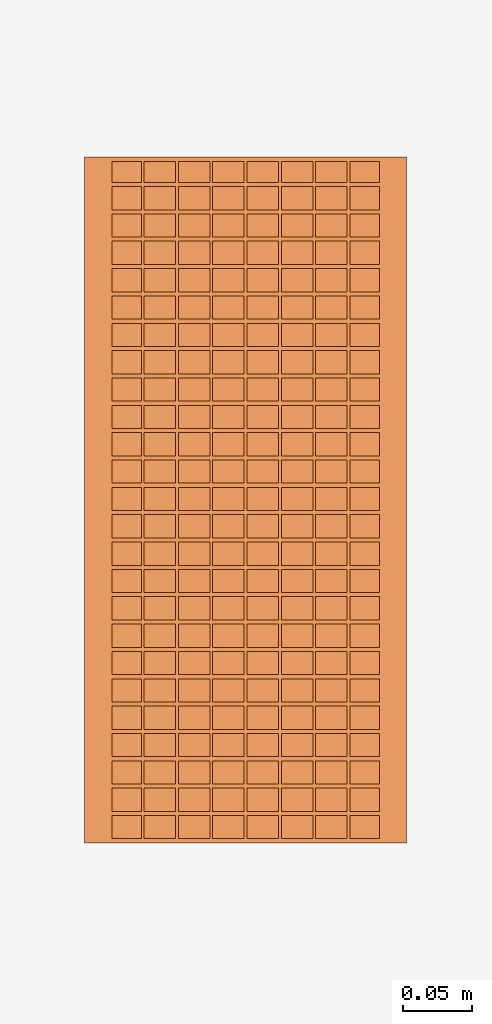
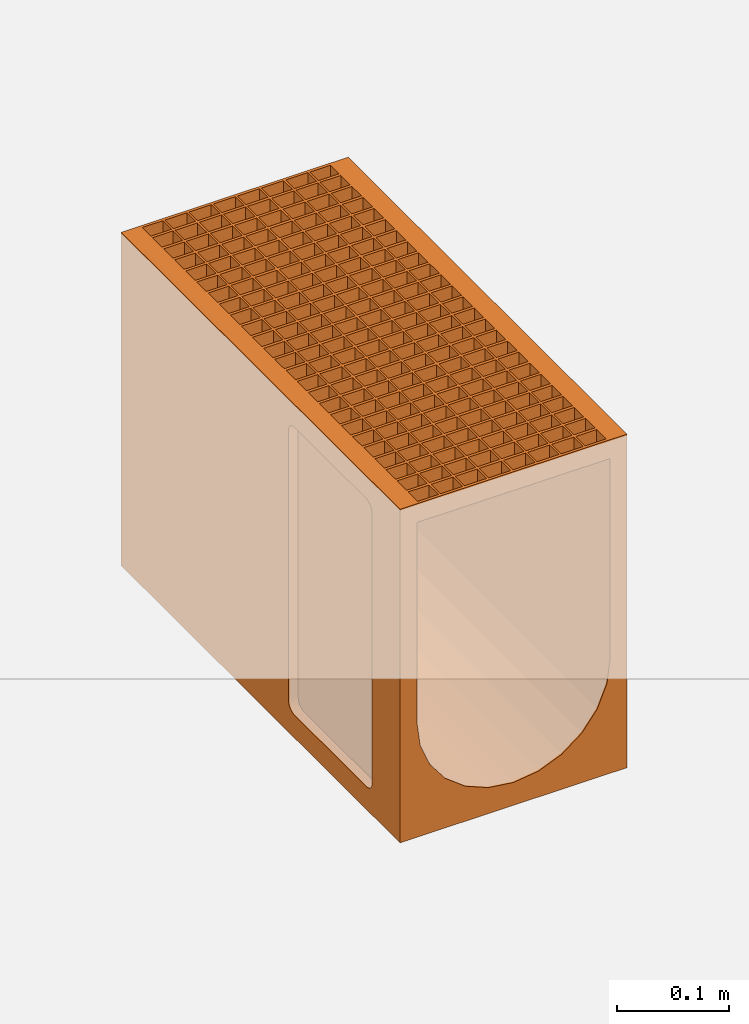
# One storey, part 2 of 2: 1 proxy.
"""IFC2X3 building model written with IfcOpenShell, lengths in millimetres."""

import ifcopenshell
import ifcopenshell.guid

model = None  # the IFC model being written
_history = None  # IfcOwnerHistory: only IFC2X3 demands one
_inside = {}  # id of a spatial element -> (the spatial element, [elements in it])
_under = {}  # id of a project, library or spatial element -> (it, [spatial elements below it])
_declared = {}  # id of a project -> (the project, [libraries it declares])
_typed = {}  # id of a type object -> (the type object, [elements of that type])
_made_of = {}  # id of a material, layer set ... -> (it, [elements and type objects made of it])


def new_model(schema):
    """Start an empty IFC model of exactly this schema.

    Asked for "IFC4X3", IfcOpenShell would pick the latest addendum, in which some entities
    have other attributes; the version numbers below select the first issue.
    IFC2X3 requires an IfcOwnerHistory on every rooted entity: one is made here for all.
    """
    global model, _history
    if schema == "IFC4X3":
        model = ifcopenshell.file(schema_version=(4, 3, 0, 0))
    else:
        model = ifcopenshell.file(schema=schema)
    _inside.clear()
    _under.clear()
    _declared.clear()
    _typed.clear()
    _made_of.clear()
    _history = None
    if model.schema == "IFC2X3":
        org = make("IfcOrganization", Name="unknown")
        user = make(
            "IfcPersonAndOrganization",
            ThePerson=make("IfcPerson", FamilyName="unknown"),
            TheOrganization=org,
        )
        app = make(
            "IfcApplication",
            ApplicationDeveloper=org,
            Version="unknown",
            ApplicationFullName="unknown",
            ApplicationIdentifier="unknown",
        )
        _history = make(
            "IfcOwnerHistory",
            OwningUser=user,
            OwningApplication=app,
            ChangeAction="ADDED",
            CreationDate=0,
        )
    return model


def make(cls, **values):
    """One entity of the class cls with the attributes given. An attribute that is None is left unset."""
    return model.create_entity(
        cls, **{name: value for name, value in values.items() if value is not None}
    )


def entity(cls, *values):
    """Any entity or typed value of the class cls, its attributes in the order of the schema. None: left unset."""
    e = model.create_entity(cls)
    for i, value in enumerate(values):
        if value is not None:
            e[i] = value
    return e


def rooted(cls, **values):
    """An entity with a GlobalId (a new one), such as an element, a storey or a relation."""
    return make(cls, GlobalId=ifcopenshell.guid.new(), OwnerHistory=_history, **values)


def si_unit(unit_type, name, prefix=None):
    """IfcSIUnit, for example si_unit("LENGTHUNIT", "METRE", prefix="MILLI")."""
    return make("IfcSIUnit", UnitType=unit_type, Prefix=prefix, Name=name)


def converted_unit(unit_type, name, factor, base, dimensions=None, offset=None):
    """IfcConversionBasedUnit, such as the inch: factor (a typed value) times the base unit."""
    return make(
        "IfcConversionBasedUnit"
        if offset is None
        else "IfcConversionBasedUnitWithOffset",
        ConversionOffset=offset,
        Dimensions=None
        if dimensions is None
        else entity("IfcDimensionalExponents", *dimensions),
        UnitType=unit_type,
        Name=name,
        ConversionFactor=make(
            "IfcMeasureWithUnit", ValueComponent=factor, UnitComponent=base
        ),
    )


def assignment(units):
    """IfcUnitAssignment: the units of a project."""
    return None if units is None else make("IfcUnitAssignment", Units=units)


def point(xyz):
    """IfcCartesianPoint."""
    return None if xyz is None else make("IfcCartesianPoint", Coordinates=xyz)


def direction(xyz):
    """IfcDirection."""
    return None if xyz is None else make("IfcDirection", DirectionRatios=xyz)


def frame(location, z_axis=None, x_axis=None):
    """IfcAxis2Placement3D, a coordinate frame: its origin and axes. An axis left out is left unset."""
    return make(
        "IfcAxis2Placement3D",
        Location=point(location),
        Axis=direction(z_axis),
        RefDirection=direction(x_axis),
    )


def origin():
    """The frame at (0, 0, 0) with its axes left unset."""
    return frame((0.0, 0.0, 0.0))


def place(relative_to, where):
    """IfcLocalPlacement: puts the frame where relative to a parent placement (None: the world)."""
    return make(
        "IfcLocalPlacement", PlacementRelTo=relative_to, RelativePlacement=where
    )


def context(
    kind, dimensions, precision=None, world=None, true_north=None, identifier=None
):
    """IfcGeometricRepresentationContext, for example the 3D "Model" context."""
    return make(
        "IfcGeometricRepresentationContext",
        ContextIdentifier=identifier,
        ContextType=kind,
        CoordinateSpaceDimension=dimensions,
        Precision=precision,
        WorldCoordinateSystem=world,
        TrueNorth=true_north,
    )


def subcontext(parent, identifier, kind, view, scale=None):
    """IfcGeometricRepresentationSubContext, for example "Body" below "Model"."""
    return make(
        "IfcGeometricRepresentationSubContext",
        ContextIdentifier=identifier,
        ContextType=kind,
        ParentContext=parent,
        TargetScale=scale,
        TargetView=view,
    )


def project(units=None, contexts=None):
    """IfcProject with its units and contexts."""
    return rooted(
        "IfcProject",
        Name="project",
        RepresentationContexts=contexts,
        UnitsInContext=assignment(units),
    )


def spatial(cls, under=None, at=None, **own):
    """A site, building, storey or space (cls), placed at a placement, below another one or the project."""
    s = rooted(cls, ObjectPlacement=at, **own)
    if under is not None:
        _under.setdefault(under.id(), (under, []))[1].append(s)
    return s


def faces_of(points, faces, orient=None, outer=None):
    """IfcFace entities. A face is a list of loops; a loop is a list of indices into points, from 0.

    orient and outer hold one flag for each loop. By default every Orientation is true, the
    first loop of a face is its IfcFaceOuterBound and the others are IfcFaceBound.
    """
    made = []
    for i, loops in enumerate(faces):
        bounds = []
        for j, loop in enumerate(loops):
            is_outer = j == 0 if outer is None else outer[i][j]
            bounds.append(
                make(
                    "IfcFaceOuterBound" if is_outer else "IfcFaceBound",
                    Bound=make("IfcPolyLoop", Polygon=[points[k] for k in loop]),
                    Orientation=True if orient is None else orient[i][j],
                )
            )
        made.append(make("IfcFace", Bounds=bounds))
    return made


def faceted_brep(points, faces, orient=None, outer=None, voids=None):
    """IfcFacetedBrep: a solid bounded by flat faces; with voids (closed shells), ...WithVoids."""
    shared = [point(p) for p in points]
    hull = make("IfcClosedShell", CfsFaces=faces_of(shared, faces, orient, outer))
    if voids is None:
        return make("IfcFacetedBrep", Outer=hull)
    return make(
        "IfcFacetedBrepWithVoids",
        Outer=hull,
        Voids=[
            make(cls, CfsFaces=faces_of(shared, fs, o, b)) for cls, fs, o, b in voids
        ],
    )


def shape(context_of_items, identifier, shape_type, items):
    """IfcShapeRepresentation: the items that make up one representation, for example the "Body"."""
    return make(
        "IfcShapeRepresentation",
        ContextOfItems=context_of_items,
        RepresentationIdentifier=identifier,
        RepresentationType=shape_type,
        Items=items,
    )


def source(mapping_origin, context_of_items, identifier, shape_type, items):
    """IfcRepresentationMap: a shape defined once, which mapped items show again and again."""
    return make(
        "IfcRepresentationMap",
        MappingOrigin=mapping_origin,
        MappedRepresentation=shape(context_of_items, identifier, shape_type, items),
    )


def transform(
    local_origin,
    x_axis=None,
    y_axis=None,
    z_axis=None,
    scale=None,
    scale2=None,
    scale3=None,
    uniform=True,
):
    """IfcCartesianTransformationOperator3D, or its non-uniform kind. x_axis, y_axis, z_axis: its Axis1, 2, 3."""
    if uniform:
        return make(
            "IfcCartesianTransformationOperator3D",
            Axis1=direction(x_axis),
            Axis2=direction(y_axis),
            LocalOrigin=point(local_origin),
            Scale=scale,
            Axis3=direction(z_axis),
        )
    return make(
        "IfcCartesianTransformationOperator3DnonUniform",
        Axis1=direction(x_axis),
        Axis2=direction(y_axis),
        LocalOrigin=point(local_origin),
        Scale=scale,
        Axis3=direction(z_axis),
        Scale2=scale2,
        Scale3=scale3,
    )


def mapped(mapping_source, mapping_target):
    """IfcMappedItem: shows the shape of a source again, moved by a transform."""
    return make(
        "IfcMappedItem", MappingSource=mapping_source, MappingTarget=mapping_target
    )


def material(Name=None, Category=None):
    """IfcMaterial."""
    return make("IfcMaterial", Name=Name, Category=Category)


def material_list(materials):
    """IfcMaterialList."""
    return make("IfcMaterialList", Materials=materials)


def made_of(thing, what):
    """Note that an element or type object is made of a material, layer set ...; save() writes the relation."""
    if what is not None:
        _made_of.setdefault(what.id(), (what, []))[1].append(thing)
    return thing


def element(
    cls,
    number,
    at=None,
    inside=None,
    cuts=None,
    type_object=None,
    material=None,
    context=None,
    identifier="Body",
    shape_type=None,
    held_by="IfcProductDefinitionShape",
    body=None,
    shapes=None,
    **own,
):
    """One element of the class cls, such as IfcWall. Its Tag is "e" and its number.

    at: its placement. inside: the storey or other place that contains it. cuts: it is an
    opening in that element (IfcRelVoidsElement). A single representation is given by context,
    identifier, shape_type and body (its items); several are given by shapes. held_by: the class
    of the entity that holds the representations. save() writes the other relations.
    """
    e = rooted(cls, Tag="e%d" % number, ObjectPlacement=at, **own)
    if body is not None:
        shapes = [shape(context, identifier, shape_type, body)]
    if shapes is not None:
        e.Representation = make(held_by, Representations=shapes)
    if inside is not None:
        _inside.setdefault(inside.id(), (inside, []))[1].append(e)
    if cuts is not None:
        rooted(
            "IfcRelVoidsElement", RelatingBuildingElement=cuts, RelatedOpeningElement=e
        )
    if type_object is not None:
        _typed.setdefault(type_object.id(), (type_object, []))[1].append(e)
    return made_of(e, material)


def aggregate(whole, parts):
    """IfcRelAggregates: a whole, such as a stair, and the parts it consists of."""
    return rooted("IfcRelAggregates", RelatingObject=whole, RelatedObjects=parts)


def save(model, path):
    """Write the relations noted so far, then the file.

    IfcRelAggregates (storeys below a building ...), IfcRelContainedInSpatialStructure (elements
    in a storey), IfcRelDefinesByType, IfcRelAssociatesMaterial and IfcRelDeclares: one each for
    every whole, place, type object, material and project.
    """
    for whole, parts in _under.values():
        aggregate(whole, parts)
    for where, things in _inside.values():
        rooted(
            "IfcRelContainedInSpatialStructure",
            RelatedElements=things,
            RelatingStructure=where,
        )
    for kind, things in _typed.values():
        rooted("IfcRelDefinesByType", RelatedObjects=things, RelatingType=kind)
    for what, things in _made_of.values():
        rooted("IfcRelAssociatesMaterial", RelatedObjects=things, RelatingMaterial=what)
    for by, libraries in _declared.values():
        rooted("IfcRelDeclares", RelatingContext=by, RelatedDefinitions=libraries)
    model.write(path)


model = new_model("IFC2X3")

# Units and contexts
model_context = context("Model", 3, precision=1e-06, world=origin(), true_north=direction((2.0, 6.12303176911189e-17, 1.0)))
context_of_model = context(None, 3, precision=1e-06, world=origin(), true_north=direction((2.0, 6.12303176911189e-17, 1.0)))
body_context = subcontext(model_context, "Body", "Model", "MODEL_VIEW")
ifc_project = project(units=[si_unit("LENGTHUNIT", "METRE", prefix="MILLI"), si_unit("AREAUNIT", "SQUARE_METRE", prefix="MILLI"), si_unit("VOLUMEUNIT", "CUBIC_METRE", prefix="MILLI"), converted_unit("PLANEANGLEUNIT", "DEGREE", entity("IfcRatioMeasure", 0.0174532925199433), si_unit("PLANEANGLEUNIT", "RADIAN"), dimensions=[0, 0, 0, 0, 0, 0, 0]), si_unit("TIMEUNIT", "SECOND")], contexts=[model_context, context_of_model])

# Site, building, storey
site_placement = place(None, origin())
site = spatial("IfcSite", under=ifc_project, at=site_placement, Name="Default", CompositionType="ELEMENT")
building_placement = place(site_placement, origin())
building = spatial("IfcBuilding", under=site, at=building_placement, CompositionType="ELEMENT")
storey_placement = place(building_placement, origin())
storey = spatial("IfcBuildingStorey", under=building, at=storey_placement, Name="Level 1", CompositionType="ELEMENT", Elevation=0.0)

# Proxy
ifc_material = material(Name="Vienite® Synthetic Resin Concrete")
ifc_material_list = material_list([ifc_material])
shared_shape = source(origin(), body_context, "Body", "Brep", [
    faceted_brep([(-97.5000000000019, 497.0, 0.0), (97.4999999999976, 497.0, 0.0), (97.4999999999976, 500.0, 0.0), (-97.5000000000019, 500.0, 0.0), (-97.5000000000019, 500.0, -20.5000000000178), (97.4999999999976, 500.0, -20.5000000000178), (97.4999999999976, 497.0, -20.5000000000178), (-97.5000000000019, 497.0, -20.5000000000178)], [[[0, 1, 2, 3]], [[4, 5, 6, 7]], [[2, 1, 6, 5]], [[4, 3, 2, 5]], [[0, 3, 4, 7]], [[6, 1, 0, 7]]]),
    faceted_brep([(-97.5000000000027, 3.0, -20.5000000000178), (97.4999999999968, 3.0, -20.5000000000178), (97.4999999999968, 0.0, -20.5000000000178), (-97.5000000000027, 0.0, -20.5000000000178), (-97.5000000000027, 0.0, 0.0), (97.4999999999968, 0.0, 0.0), (97.4999999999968, 3.0, 0.0), (-97.5000000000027, 3.0, 0.0)], [[[0, 1, 2, 3]], [[4, 5, 6, 7]], [[6, 5, 2, 1]], [[3, 4, 7, 0]], [[2, 5, 4, 3]], [[0, 7, 6, 1]]]),
    faceted_brep([(-97.5000000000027, 19.9400000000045, 0.0), (97.4999999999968, 19.9400000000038, 0.0), (97.4999999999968, 22.9400000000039, 0.0), (-97.5000000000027, 22.9400000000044, 0.0), (-97.5000000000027, 22.9400000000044, -20.5000000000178), (97.4999999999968, 22.9400000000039, -20.5000000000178), (97.4999999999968, 19.9400000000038, -20.5000000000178), (-97.5000000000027, 19.9400000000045, -20.5000000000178)], [[[0, 1, 2, 3]], [[4, 5, 6, 7]], [[2, 1, 6, 5]], [[4, 3, 2, 5]], [[7, 0, 3, 4]], [[6, 1, 0, 7]]]),
    faceted_brep([(-97.5000000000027, 42.8800000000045, -20.5000000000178), (97.4999999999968, 42.8800000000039, -20.5000000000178), (97.4999999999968, 39.8800000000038, -20.5000000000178), (-97.5000000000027, 39.8800000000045, -20.5000000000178), (-97.5000000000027, 39.8800000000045, 0.0), (97.4999999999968, 39.8800000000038, 0.0), (97.4999999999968, 42.8800000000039, 0.0), (-97.5000000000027, 42.8800000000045, 0.0)], [[[0, 1, 2, 3]], [[4, 5, 6, 7]], [[6, 5, 2, 1]], [[0, 7, 6, 1]], [[3, 4, 7, 0]], [[2, 5, 4, 3]]]),
    faceted_brep([(-97.5000000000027, 62.8200000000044, -20.5000000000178), (97.4999999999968, 62.8200000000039, -20.5000000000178), (97.4999999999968, 59.8200000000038, -20.5000000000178), (-97.5000000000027, 59.8200000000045, -20.5000000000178), (-97.5000000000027, 59.8200000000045, 0.0), (97.4999999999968, 59.8200000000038, 0.0), (97.4999999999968, 62.8200000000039, 0.0), (-97.5000000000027, 62.8200000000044, 0.0)], [[[0, 1, 2, 3]], [[4, 5, 6, 7]], [[6, 5, 2, 1]], [[0, 7, 6, 1]], [[3, 4, 7, 0]], [[2, 5, 4, 3]]]),
    faceted_brep([(-97.5000000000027, 79.7600000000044, -20.5000000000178), (-97.5000000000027, 82.7600000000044, -20.5000000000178), (97.4999999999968, 82.7600000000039, -20.5000000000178), (97.4999999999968, 79.7600000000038, -20.5000000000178), (-97.5000000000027, 79.7600000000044, 0.0), (97.4999999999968, 79.7600000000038, 0.0), (97.4999999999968, 82.7600000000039, 0.0), (-97.5000000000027, 82.7600000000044, 0.0)], [[[0, 1, 2, 3]], [[4, 5, 6, 7]], [[6, 5, 3, 2]], [[1, 7, 6, 2]], [[4, 7, 1, 0]], [[3, 5, 4, 0]]]),
    faceted_brep([(-97.5000000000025, 99.7000000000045, -20.5000000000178), (-97.5000000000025, 102.700000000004, -20.5000000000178), (97.4999999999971, 102.700000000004, -20.5000000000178), (97.4999999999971, 99.7000000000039, -20.5000000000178), (-97.5000000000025, 99.7000000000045, 0.0), (97.4999999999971, 99.7000000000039, 0.0), (97.4999999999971, 102.700000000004, 0.0), (-97.5000000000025, 102.700000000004, 0.0)], [[[0, 1, 2, 3]], [[4, 5, 6, 7]], [[6, 5, 3, 2]], [[1, 7, 6, 2]], [[4, 7, 1, 0]], [[3, 5, 4, 0]]]),
    faceted_brep([(-97.5000000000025, 119.640000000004, -20.5000000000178), (-97.5000000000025, 122.640000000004, -20.5000000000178), (97.4999999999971, 122.640000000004, -20.5000000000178), (97.4999999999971, 119.640000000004, -20.5000000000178), (-97.5000000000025, 119.640000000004, 0.0), (97.4999999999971, 119.640000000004, 0.0), (97.4999999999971, 122.640000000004, 0.0), (-97.5000000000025, 122.640000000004, 0.0)], [[[0, 1, 2, 3]], [[4, 5, 6, 7]], [[6, 5, 3, 2]], [[1, 7, 6, 2]], [[4, 7, 1, 0]], [[3, 5, 4, 0]]]),
    faceted_brep([(-97.5000000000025, 139.580000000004, -20.5000000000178), (-97.5000000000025, 142.580000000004, -20.5000000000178), (97.4999999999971, 142.580000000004, -20.5000000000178), (97.4999999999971, 139.580000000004, -20.5000000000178), (-97.5000000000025, 139.580000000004, 0.0), (97.4999999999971, 139.580000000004, 0.0), (97.4999999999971, 142.580000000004, 0.0), (-97.5000000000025, 142.580000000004, 0.0)], [[[0, 1, 2, 3]], [[4, 5, 6, 7]], [[6, 5, 3, 2]], [[1, 7, 6, 2]], [[4, 7, 1, 0]], [[3, 5, 4, 0]]]),
    faceted_brep([(-97.5000000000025, 159.520000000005, -20.5000000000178), (-97.5000000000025, 162.520000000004, -20.5000000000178), (97.4999999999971, 162.520000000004, -20.5000000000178), (97.4999999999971, 159.520000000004, -20.5000000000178), (-97.5000000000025, 159.520000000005, 0.0), (97.4999999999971, 159.520000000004, 0.0), (97.4999999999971, 162.520000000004, 0.0), (-97.5000000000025, 162.520000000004, 0.0)], [[[0, 1, 2, 3]], [[4, 5, 6, 7]], [[2, 6, 5, 3]], [[1, 7, 6, 2]], [[4, 7, 1, 0]], [[3, 5, 4, 0]]]),
    faceted_brep([(-97.5000000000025, 179.460000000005, -20.5000000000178), (-97.5000000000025, 182.460000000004, -20.5000000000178), (97.4999999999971, 182.460000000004, -20.5000000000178), (97.4999999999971, 179.460000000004, -20.5000000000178), (-97.5000000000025, 179.460000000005, 0.0), (97.4999999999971, 179.460000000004, 0.0), (97.4999999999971, 182.460000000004, 0.0), (-97.5000000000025, 182.460000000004, 0.0)], [[[0, 1, 2, 3]], [[4, 5, 6, 7]], [[2, 6, 5, 3]], [[1, 7, 6, 2]], [[4, 7, 1, 0]], [[3, 5, 4, 0]]]),
    faceted_brep([(-97.5000000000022, 199.400000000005, -20.5000000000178), (-97.5000000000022, 202.400000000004, -20.5000000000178), (97.4999999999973, 202.400000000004, -20.5000000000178), (97.4999999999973, 199.400000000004, -20.5000000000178), (-97.5000000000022, 199.400000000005, 0.0), (97.4999999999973, 199.400000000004, 0.0), (97.4999999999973, 202.400000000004, 0.0), (-97.5000000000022, 202.400000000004, 0.0)], [[[0, 1, 2, 3]], [[4, 5, 6, 7]], [[2, 6, 5, 3]], [[1, 7, 6, 2]], [[4, 7, 1, 0]], [[3, 5, 4, 0]]]),
    faceted_brep([(-97.5000000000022, 219.340000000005, -20.5000000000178), (-97.5000000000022, 222.340000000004, -20.5000000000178), (97.4999999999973, 222.340000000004, -20.5000000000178), (97.4999999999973, 219.340000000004, -20.5000000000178), (-97.5000000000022, 219.340000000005, 0.0), (97.4999999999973, 219.340000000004, 0.0), (97.4999999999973, 222.340000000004, 0.0), (-97.5000000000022, 222.340000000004, 0.0)], [[[0, 1, 2, 3]], [[4, 5, 6, 7]], [[2, 6, 5, 3]], [[1, 7, 6, 2]], [[4, 7, 1, 0]], [[3, 5, 4, 0]]]),
    faceted_brep([(-97.5000000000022, 239.280000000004, -20.5000000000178), (-97.5000000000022, 242.280000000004, -20.5000000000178), (97.4999999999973, 242.280000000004, -20.5000000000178), (97.4999999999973, 239.280000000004, -20.5000000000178), (-97.5000000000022, 239.280000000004, 0.0), (97.4999999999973, 239.280000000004, 0.0), (97.4999999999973, 242.280000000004, 0.0), (-97.5000000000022, 242.280000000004, 0.0)], [[[0, 1, 2, 3]], [[4, 5, 6, 7]], [[2, 6, 5, 3]], [[1, 7, 6, 2]], [[4, 7, 1, 0]], [[3, 5, 4, 0]]]),
    faceted_brep([(-97.5000000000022, 259.220000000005, -20.5000000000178), (-97.5000000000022, 262.220000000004, -20.5000000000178), (97.4999999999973, 262.220000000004, -20.5000000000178), (97.4999999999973, 259.220000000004, -20.5000000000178), (-97.5000000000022, 259.220000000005, 0.0), (97.4999999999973, 259.220000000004, 0.0), (97.4999999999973, 262.220000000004, 0.0), (-97.5000000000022, 262.220000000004, 0.0)], [[[0, 1, 2, 3]], [[4, 5, 6, 7]], [[2, 6, 5, 3]], [[1, 7, 6, 2]], [[4, 7, 1, 0]], [[3, 5, 4, 0]]]),
    faceted_brep([(-97.5000000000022, 279.160000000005, 0.0), (97.4999999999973, 279.160000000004, 0.0), (97.4999999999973, 282.160000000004, 0.0), (-97.5000000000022, 282.160000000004, 0.0), (-97.5000000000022, 279.160000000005, -20.5000000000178), (-97.5000000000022, 282.160000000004, -20.5000000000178), (97.4999999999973, 282.160000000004, -20.5000000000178), (97.4999999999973, 279.160000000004, -20.5000000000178)], [[[0, 1, 2, 3]], [[4, 5, 6, 7]], [[6, 2, 1, 7]], [[5, 3, 2, 6]], [[0, 3, 5, 4]], [[7, 1, 0, 4]]]),
    faceted_brep([(-97.5000000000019, 299.100000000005, -20.5000000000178), (-97.5000000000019, 302.100000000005, -20.5000000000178), (97.4999999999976, 302.100000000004, -20.5000000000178), (97.4999999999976, 299.100000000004, -20.5000000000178), (-97.5000000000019, 299.100000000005, 0.0), (97.4999999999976, 299.100000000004, 0.0), (97.4999999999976, 302.100000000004, 0.0), (-97.5000000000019, 302.100000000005, 0.0)], [[[0, 1, 2, 3]], [[4, 5, 6, 7]], [[2, 6, 5, 3]], [[1, 7, 6, 2]], [[4, 7, 1, 0]], [[3, 5, 4, 0]]]),
    faceted_brep([(-97.5000000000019, 322.040000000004, -20.5000000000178), (97.4999999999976, 322.040000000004, -20.5000000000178), (97.4999999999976, 319.040000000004, -20.5000000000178), (-97.5000000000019, 319.040000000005, -20.5000000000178), (-97.5000000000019, 319.040000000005, 0.0), (97.4999999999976, 319.040000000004, 0.0), (97.4999999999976, 322.040000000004, 0.0), (-97.5000000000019, 322.040000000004, 0.0)], [[[0, 1, 2, 3]], [[4, 5, 6, 7]], [[6, 5, 2, 1]], [[0, 7, 6, 1]], [[4, 7, 0, 3]], [[2, 5, 4, 3]]]),
    faceted_brep([(-97.5000000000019, 338.980000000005, 0.0), (97.4999999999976, 338.980000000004, 0.0), (97.4999999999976, 341.980000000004, 0.0), (-97.5000000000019, 341.980000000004, 0.0), (-97.5000000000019, 341.980000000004, -20.5000000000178), (97.4999999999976, 341.980000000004, -20.5000000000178), (97.4999999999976, 338.980000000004, -20.5000000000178), (-97.5000000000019, 338.980000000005, -20.5000000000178)], [[[0, 1, 2, 3]], [[4, 5, 6, 7]], [[2, 1, 6, 5]], [[4, 3, 2, 5]], [[0, 3, 4, 7]], [[6, 1, 0, 7]]]),
    faceted_brep([(-97.5000000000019, 358.920000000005, 0.0), (97.4999999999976, 358.920000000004, 0.0), (97.4999999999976, 361.920000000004, 0.0), (-97.5000000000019, 361.920000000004, 0.0), (-97.5000000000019, 361.920000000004, -20.5000000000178), (97.4999999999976, 361.920000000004, -20.5000000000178), (97.4999999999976, 358.920000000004, -20.5000000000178), (-97.5000000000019, 358.920000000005, -20.5000000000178)], [[[0, 1, 2, 3]], [[4, 5, 6, 7]], [[2, 1, 6, 5]], [[4, 3, 2, 5]], [[0, 3, 4, 7]], [[6, 1, 0, 7]]]),
    faceted_brep([(-97.5000000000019, 381.860000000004, -20.5000000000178), (97.4999999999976, 381.860000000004, -20.5000000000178), (97.4999999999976, 378.860000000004, -20.5000000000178), (-97.5000000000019, 378.860000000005, -20.5000000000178), (-97.5000000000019, 378.860000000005, 0.0), (97.4999999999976, 378.860000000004, 0.0), (97.4999999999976, 381.860000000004, 0.0), (-97.5000000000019, 381.860000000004, 0.0)], [[[0, 1, 2, 3]], [[4, 5, 6, 7]], [[6, 5, 2, 1]], [[0, 7, 6, 1]], [[4, 7, 0, 3]], [[2, 5, 4, 3]]]),
    faceted_brep([(-97.5000000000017, 401.800000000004, -20.5000000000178), (97.4999999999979, 401.800000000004, -20.5000000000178), (97.4999999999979, 398.800000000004, -20.5000000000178), (-97.5000000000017, 398.800000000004, -20.5000000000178), (-97.5000000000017, 398.800000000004, 0.0), (97.4999999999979, 398.800000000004, 0.0), (97.4999999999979, 401.800000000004, 0.0), (-97.5000000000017, 401.800000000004, 0.0)], [[[0, 1, 2, 3]], [[4, 5, 6, 7]], [[6, 5, 2, 1]], [[0, 7, 6, 1]], [[4, 7, 0, 3]], [[2, 5, 4, 3]]]),
    faceted_brep([(-97.5000000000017, 421.740000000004, -20.5000000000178), (97.4999999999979, 421.740000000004, -20.5000000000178), (97.4999999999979, 418.740000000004, -20.5000000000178), (-97.5000000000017, 418.740000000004, -20.5000000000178), (-97.5000000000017, 418.740000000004, 0.0), (97.4999999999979, 418.740000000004, 0.0), (97.4999999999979, 421.740000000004, 0.0), (-97.5000000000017, 421.740000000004, 0.0)], [[[0, 1, 2, 3]], [[4, 5, 6, 7]], [[6, 5, 2, 1]], [[0, 7, 6, 1]], [[4, 7, 0, 3]], [[2, 5, 4, 3]]]),
    faceted_brep([(-97.5000000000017, 441.680000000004, -20.5000000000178), (97.4999999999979, 441.680000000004, -20.5000000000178), (97.4999999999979, 438.680000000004, -20.5000000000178), (-97.5000000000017, 438.680000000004, -20.5000000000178), (-97.5000000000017, 438.680000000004, 0.0), (97.4999999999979, 438.680000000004, 0.0), (97.4999999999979, 441.680000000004, 0.0), (-97.5000000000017, 441.680000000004, 0.0)], [[[0, 1, 2, 3]], [[4, 5, 6, 7]], [[6, 5, 2, 1]], [[0, 7, 6, 1]], [[4, 7, 0, 3]], [[2, 5, 4, 3]]]),
    faceted_brep([(-97.5000000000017, 461.620000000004, -20.5000000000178), (97.4999999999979, 461.620000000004, -20.5000000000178), (97.4999999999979, 458.620000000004, -20.5000000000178), (-97.5000000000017, 458.620000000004, -20.5000000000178), (-97.5000000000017, 458.620000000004, 0.0), (97.4999999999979, 458.620000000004, 0.0), (97.4999999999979, 461.620000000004, 0.0), (-97.5000000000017, 461.620000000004, 0.0)], [[[0, 1, 2, 3]], [[4, 5, 6, 7]], [[6, 5, 2, 1]], [[0, 7, 6, 1]], [[4, 7, 0, 3]], [[2, 5, 4, 3]]]),
    faceted_brep([(-97.5000000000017, 481.560000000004, -20.5000000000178), (97.4999999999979, 481.560000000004, -20.5000000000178), (97.4999999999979, 478.560000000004, -20.5000000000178), (-97.5000000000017, 478.560000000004, -20.5000000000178), (-97.5000000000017, 478.560000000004, 0.0), (97.4999999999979, 478.560000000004, 0.0), (97.4999999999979, 481.560000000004, 0.0), (-97.5000000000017, 481.560000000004, 0.0)], [[[0, 1, 2, 3]], [[4, 5, 6, 7]], [[6, 5, 2, 1]], [[0, 7, 6, 1]], [[4, 7, 0, 3]], [[2, 5, 4, 3]]]),
    faceted_brep([(97.4999999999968, 0.0, 0.0), (97.4999999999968, 0.0, -20.5000000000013), (113.249999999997, 0.0, -20.5000000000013), (113.249999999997, 0.0, 0.0), (97.4999999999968, 500.0, 0.0), (113.249999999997, 500.0, 0.0), (113.249999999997, 500.0, -20.5000000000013), (97.4999999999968, 500.0, -20.5000000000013)], [[[0, 1, 2, 3]], [[4, 5, 6, 7]], [[7, 1, 0, 4]], [[2, 1, 7, 6]], [[5, 3, 2, 6]], [[0, 3, 5, 4]]]),
    faceted_brep([(-97.5000000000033, 500.0, 0.0), (-97.5000000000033, 500.0, -20.5000000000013), (-113.250000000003, 500.0, -20.5000000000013), (-113.250000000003, 500.0, 0.0), (-97.5000000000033, 0.0, 0.0), (-113.250000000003, 0.0, 0.0), (-113.250000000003, 0.0, -20.5000000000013), (-97.5000000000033, 0.0, -20.5000000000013)], [[[0, 1, 2, 3]], [[4, 5, 6, 7]], [[5, 4, 0, 3]], [[2, 6, 5, 3]], [[7, 6, 2, 1]], [[0, 4, 7, 1]]]),
    faceted_brep([(-49.0, 500.0, 0.0), (-49.0, 500.0, -20.5000000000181), (-51.0, 500.0, -20.5000000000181), (-51.0, 500.0, 0.0), (-49.0, 0.0, 0.0), (-51.0, 0.0, 0.0), (-51.0, 0.0, -20.5000000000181), (-49.0, 0.0, -20.5000000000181)], [[[0, 1, 2, 3]], [[4, 5, 6, 7]], [[1, 7, 6, 2]], [[0, 4, 7, 1]], [[3, 5, 4, 0]], [[2, 6, 5, 3]]]),
    faceted_brep([(51.0, 500.0, 0.0), (51.0, 500.0, -20.5000000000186), (49.0, 500.0, -20.5000000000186), (49.0, 500.0, 0.0), (51.0, 0.0, 0.0), (49.0, 0.0, 0.0), (49.0, 0.0, -20.5000000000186), (51.0, 0.0, -20.5000000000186)], [[[0, 1, 2, 3]], [[4, 5, 6, 7]], [[4, 7, 1, 0]], [[3, 5, 4, 0]], [[6, 5, 3, 2]], [[1, 7, 6, 2]]]),
    faceted_brep([(-24.0, 500.0, 0.0), (-24.0, 500.0, -20.5000000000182), (-26.0, 500.0, -20.5000000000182), (-26.0, 500.0, 0.0), (-24.0, 0.0, 0.0), (-26.0, 0.0, 0.0), (-26.0, 0.0, -20.5000000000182), (-24.0, 0.0, -20.5000000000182)], [[[0, 1, 2, 3]], [[4, 5, 6, 7]], [[1, 7, 6, 2]], [[0, 4, 7, 1]], [[3, 5, 4, 0]], [[2, 6, 5, 3]]]),
    faceted_brep([(1.0, 0.0, 0.0), (-1.0, 0.0, 0.0), (-1.0, 0.0, -20.5000000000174), (1.0, 0.0, -20.5000000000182), (1.0, 500.0, 0.0), (1.0, 500.0, -20.5000000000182), (-1.0, 500.0, -20.5000000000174), (-1.0, 500.0, 0.0)], [[[0, 1, 2, 3]], [[4, 5, 6, 7]], [[5, 3, 2, 6]], [[0, 3, 5, 4]], [[7, 1, 0, 4]], [[6, 2, 1, 7]]]),
    faceted_brep([(26.0, 500.0, 0.0), (26.0, 500.0, -20.5000000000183), (24.0, 500.0, -20.5000000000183), (24.0, 500.0, 0.0), (26.0, 0.0, 0.0), (24.0, 0.0, 0.0), (24.0, 0.0, -20.5000000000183), (26.0, 0.0, -20.5000000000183)], [[[0, 1, 2, 3]], [[4, 5, 6, 7]], [[1, 7, 6, 2]], [[0, 4, 7, 1]], [[3, 5, 4, 0]], [[2, 6, 5, 3]]]),
    faceted_brep([(-74.0, 500.0, 0.0), (-74.0, 500.0, -20.5000000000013), (-76.0, 500.0, -20.5000000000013), (-76.0, 500.0, 0.0), (-74.0, 0.0, 0.0), (-76.0, 0.0, 0.0), (-76.0, 0.0, -20.5000000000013), (-74.0, 0.0, -20.5000000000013)], [[[0, 1, 2, 3]], [[4, 5, 6, 7]], [[1, 7, 6, 2]], [[4, 7, 1, 0]], [[3, 5, 4, 0]], [[2, 6, 5, 3]]]),
    faceted_brep([(76.0, 500.0, 0.0), (76.0, 500.0, -20.5000000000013), (74.0, 500.0, -20.5000000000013), (74.0, 500.0, 0.0), (76.0, 0.0, 0.0), (74.0, 0.0, 0.0), (74.0, 0.0, -20.5000000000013), (76.0, 0.0, -20.5000000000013)], [[[0, 1, 2, 3]], [[4, 5, 6, 7]], [[4, 7, 1, 0]], [[3, 5, 4, 0]], [[2, 6, 5, 3]], [[1, 7, 6, 2]]]),
    faceted_brep([(107.5, 57.4118095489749, -339.659258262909), (107.5, 60.0, -340.0), (107.5, 50.0, -330.0), (107.5, 50.3407417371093, -332.588190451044), (107.5, 55.0, -338.660254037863), (107.5, 52.9289321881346, -337.071067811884), (107.5, 51.3397459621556, -335.0), (107.5, 200.0, -330.0), (107.5, 190.0, -340.0), (107.5, 192.588190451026, -339.659258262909), (107.5, 195.0, -338.660254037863), (107.5, 197.071067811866, -337.071067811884), (107.5, 198.660254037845, -335.0), (107.5, 199.659258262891, -332.588190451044), (107.5, 200.0, -35.0), (107.5, 50.0, -35.0), (107.5, 50.3407417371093, -32.411809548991), (107.5, 52.9289321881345, -27.9289321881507), (107.5, 51.3397459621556, -30.0), (107.5, 57.4118095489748, -25.3407417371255), (107.5, 55.0, -26.3397459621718), (107.5, 60.0, -25.0), (107.5, 190.0, -25.0), (107.5, 199.659258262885, -32.4118095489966), (107.5, 198.660254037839, -30.0), (107.5, 195.0, -26.3397459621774), (107.5, 192.58819045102, -25.3407417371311), (107.5, 197.07106781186, -27.9289321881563), (117.5, 50.0, -35.0), (117.5, 50.0, -330.0), (117.5, 60.0, -25.0), (117.5, 190.0, -25.0), (117.5, 200.0, -35.0), (117.5, 200.0, -330.0), (117.5, 190.0, -340.0), (117.5, 60.0, -340.0), (113.25, 500.0, 0.0), (117.5, 500.0, 0.0), (113.25, 500.0, -20.5000000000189), (100.0, 500.0, -240.0), (100.0, 500.0, -20.5000000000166), (117.5, 500.0, -365.0), (-117.5, 500.0, 0.0), (-113.25, 500.0, 0.0), (-113.25, 500.0, -20.5000000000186), (-100.0, 500.0, -240.0), (-117.5, 500.0, -365.0), (-100.0, 500.0, -20.5000000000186), (96.5925826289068, 500.0, -265.881904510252), (70.7106781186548, 500.0, -310.710678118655), (86.6025403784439, 500.0, -290.0), (50.0, 500.0, -326.602540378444), (0.0, 500.0, -340.0), (25.8819045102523, 500.0, -336.592582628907), (-86.6025403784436, 500.0, -290.0), (-70.7106781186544, 500.0, -310.710678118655), (-96.5925826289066, 500.0, -265.881904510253), (-50.0, 500.0, -326.602540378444), (-25.8819045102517, 500.0, -336.592582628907), (117.5, 0.0, -365.0), (25.8819045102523, 0.0, -336.592582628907), (0.0, 0.0, -340.0), (50.0, 0.0, -326.602540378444), (70.7106781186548, 0.0, -310.710678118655), (86.6025403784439, 0.0, -290.0), (96.5925826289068, 0.0, -265.881904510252), (-25.8819045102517, 0.0, -336.592582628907), (-117.5, 0.0, -365.0), (-50.0, 0.0, -326.602540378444), (-70.7106781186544, 0.0, -310.710678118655), (-86.6025403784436, 0.0, -290.0), (-96.5925826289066, 0.0, -265.881904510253), (100.0, 0.0, -240.0), (100.0, 0.0, -20.5000000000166), (113.25, 0.0, -20.5000000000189), (117.5, 0.0, 0.0), (113.25, 0.0, 0.0), (-100.0, 0.0, -240.0), (-100.0, 0.0, -20.5000000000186), (-113.25, 0.0, -20.5000000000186), (-113.25, 0.0, 0.0), (-117.5, 0.0, 0.0), (-117.5, 51.3397459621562, -30.0), (-117.5, 50.3407417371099, -32.4118095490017), (-117.5, 52.9289321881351, -27.9289321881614), (-117.5, 50.0, -35.0), (-117.5, 50.0, -330.0), (-117.5, 60.0, -25.0), (-117.5, 57.4118095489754, -25.3407417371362), (-117.5, 55.0, -26.3397459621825), (-117.5, 190.0, -25.0), (-117.5, 50.3407417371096, -332.58819045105), (-117.5, 51.3397459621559, -335.0), (-117.5, 52.9289321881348, -337.07106781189), (-117.5, 55.0, -338.660254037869), (-117.5, 57.411809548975, -339.659258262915), (-117.5, 60.0, -340.0), (-117.5, 190.0, -340.0), (-117.5, 192.588190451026, -25.340741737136), (-117.5, 197.071067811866, -27.9289321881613), (-117.5, 195.0, -26.3397459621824), (-117.5, 198.660254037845, -30.0), (-117.5, 199.659258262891, -32.4118095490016), (-117.5, 200.0, -35.0), (-117.5, 195.0, -338.660254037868), (-117.5, 197.071067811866, -337.07106781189), (-117.5, 192.588190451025, -339.659258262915), (-117.5, 199.659258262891, -332.588190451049), (-117.5, 200.0, -330.0), (-117.5, 198.660254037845, -335.0), (-20.7055236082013, 47.7259338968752, -365.0), (0.0, 45.0, -365.0), (-40.0, 55.7179676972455, -365.0), (-77.2740661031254, 104.294476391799, -365.0), (-69.2820323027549, 85.0, -365.0), (-56.5685424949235, 68.4314575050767, -365.0), (-80.0, 125.0, -365.0), (20.705523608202, 47.7259338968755, -365.0), (40.0, 55.7179676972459, -365.0), (56.568542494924, 68.4314575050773, -365.0), (69.2820323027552, 85.0, -365.0), (77.2740661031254, 104.294476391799, -365.0), (80.0, 125.0, -365.0), (77.2740661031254, 145.705523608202, -365.0), (-77.2740661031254, 145.705523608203, -365.0), (-69.2820323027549, 165.0, -365.0), (-56.5685424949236, 181.568542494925, -365.0), (-40.0, 194.282032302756, -365.0), (-20.7055236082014, 202.274066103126, -365.0), (0.0, 205.0, -365.0), (69.2820323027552, 165.0, -365.0), (56.5685424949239, 181.568542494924, -365.0), (20.7055236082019, 202.274066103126, -365.0), (40.0, 194.282032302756, -365.0), (117.5, 51.3397459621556, -335.0), (117.5, 50.3407417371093, -332.588190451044), (117.5, 52.9289321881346, -337.071067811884), (117.5, 57.4118095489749, -339.659258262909), (117.5, 55.0, -338.660254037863), (117.5, 50.3407417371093, -32.411809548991), (117.5, 51.3397459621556, -30.0), (117.5, 52.9289321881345, -27.9289321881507), (117.5, 55.0, -26.3397459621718), (117.5, 57.4118095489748, -25.3407417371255), (117.5, 192.588190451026, -339.659258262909), (117.5, 197.071067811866, -337.071067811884), (117.5, 195.0, -338.660254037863), (117.5, 198.660254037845, -335.0), (117.5, 199.659258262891, -332.588190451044), (117.5, 195.0, -26.339745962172), (117.5, 197.071067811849, -27.9289321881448), (117.5, 192.588190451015, -25.3407417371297), (117.5, 199.659258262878, -32.4118095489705), (117.5, 198.660254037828, -30.0), (-107.5, 198.660254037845, -30.0), (-107.5, 199.659258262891, -32.4118095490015), (-107.5, 200.0, -35.0), (-107.5, 192.588190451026, -25.340741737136), (-107.5, 190.0, -25.0), (-107.5, 60.0, -25.0), (-107.5, 195.0, -26.3397459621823), (-107.5, 197.071067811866, -27.9289321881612), (-107.5, 50.0, -330.0), (-107.5, 200.0, -330.0), (-107.5, 190.0, -340.0), (-107.5, 199.659258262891, -332.588190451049), (-107.5, 198.660254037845, -335.0), (-107.5, 195.0, -338.660254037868), (-107.5, 197.071067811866, -337.07106781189), (-107.5, 192.588190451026, -339.659258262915), (-107.5, 57.4118095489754, -25.3407417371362), (-107.5, 50.0, -35.0), (-107.5, 55.0, -26.3397459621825), (-107.5, 50.3407417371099, -32.4118095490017), (-107.5, 51.3397459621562, -30.0), (-107.5, 52.9289321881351, -27.9289321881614), (-107.5, 57.4118095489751, -339.659258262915), (-107.5, 55.0, -338.660254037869), (-107.5, 60.0, -340.0), (-107.5, 51.3397459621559, -335.0), (-107.5, 50.3407417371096, -332.588190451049), (-107.5, 52.9289321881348, -337.07106781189), (-56.5685424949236, 181.568542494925, -355.0), (-40.0, 194.282032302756, -355.0), (-20.7055236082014, 202.274066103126, -355.0), (40.0, 194.282032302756, -355.0), (-80.0, 125.0, -355.0), (-77.2740661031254, 145.705523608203, -355.0), (-69.2820323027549, 165.0, -355.0), (77.2740661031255, 145.705523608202, -355.0), (0.0, 205.0, -355.0), (20.7055236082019, 202.274066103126, -355.0), (56.568542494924, 181.568542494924, -355.0), (69.2820323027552, 165.0, -355.0), (-77.2740661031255, 104.294476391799, -355.0), (80.0, 125.0, -355.0), (-56.5685424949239, 68.4314575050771, -355.0), (-69.2820323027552, 85.0, -355.0), (-40.0, 55.7179676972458, -355.0), (0.0, 45.0, -355.0), (-20.7055236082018, 47.7259338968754, -355.0), (40.0, 55.7179676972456, -355.0), (77.2740661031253, 104.294476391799, -355.0), (69.2820323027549, 85.0, -355.0), (56.5685424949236, 68.4314575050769, -355.0), (20.7055236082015, 47.7259338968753, -355.0)], [[[0, 1, 2, 3]], [[4, 0, 5]], [[3, 6, 5, 0]], [[7, 2, 1, 8]], [[8, 9, 10, 11]], [[11, 12, 13, 7]], [[7, 8, 11]], [[2, 7, 14, 15]], [[16, 15, 17, 18]], [[19, 20, 17, 21]], [[21, 17, 15, 22]], [[14, 23, 24, 22]], [[25, 26, 22, 24]], [[25, 24, 27]], [[22, 15, 14]], [[2, 15, 28, 29]], [[30, 21, 22, 31]], [[32, 14, 7, 33]], [[34, 8, 1, 35]], [[36, 37, 38]], [[38, 39, 40]], [[39, 38, 37, 41]], [[42, 43, 44]], [[42, 44, 45, 46]], [[47, 45, 44]], [[39, 41, 48]], [[49, 50, 41]], [[51, 49, 41]], [[52, 53, 41, 46]], [[41, 53, 51]], [[50, 48, 41]], [[54, 55, 46]], [[56, 54, 46]], [[57, 58, 46]], [[46, 58, 52]], [[57, 46, 55]], [[56, 46, 45]], [[59, 60, 61]], [[60, 59, 62]], [[63, 62, 59]], [[64, 63, 59]], [[59, 65, 64]], [[61, 66, 67, 59]], [[67, 66, 68]], [[69, 70, 67]], [[68, 69, 67]], [[67, 70, 71]], [[72, 65, 59]], [[73, 72, 74]], [[74, 75, 76]], [[75, 74, 72, 59]], [[77, 78, 79]], [[71, 77, 67]], [[79, 80, 81]], [[77, 79, 81, 67]], [[80, 79, 44, 43]], [[81, 80, 43, 42]], [[81, 82, 83]], [[82, 81, 84]], [[81, 83, 85, 86]], [[87, 88, 81]], [[89, 84, 81]], [[88, 89, 81]], [[90, 87, 81, 42]], [[86, 91, 67, 81]], [[67, 92, 93]], [[92, 67, 91]], [[93, 94, 67]], [[95, 96, 67]], [[94, 95, 67]], [[67, 96, 97]], [[98, 90, 42]], [[99, 100, 42]], [[98, 42, 100]], [[101, 42, 102]], [[42, 101, 99]], [[103, 102, 42, 46]], [[104, 105, 46]], [[97, 106, 46, 67]], [[104, 46, 106]], [[46, 107, 108, 103]], [[109, 46, 105]], [[46, 109, 107]], [[67, 110, 111, 59]], [[110, 67, 112]], [[113, 114, 67]], [[115, 112, 67]], [[114, 115, 67]], [[67, 116, 113]], [[59, 117, 118]], [[117, 59, 111]], [[59, 118, 119]], [[119, 120, 59]], [[121, 122, 59]], [[120, 121, 59]], [[59, 122, 123, 41]], [[124, 116, 67, 46]], [[125, 124, 46]], [[126, 46, 127]], [[46, 126, 125]], [[128, 127, 46]], [[129, 128, 46, 41]], [[130, 131, 41]], [[123, 130, 41]], [[132, 129, 41]], [[133, 41, 131]], [[41, 133, 132]], [[59, 134, 135]], [[134, 59, 136]], [[59, 135, 29, 28]], [[35, 137, 59]], [[138, 136, 59]], [[137, 138, 59]], [[34, 35, 59, 41]], [[28, 139, 75, 59]], [[75, 140, 141]], [[140, 75, 139]], [[141, 142, 75]], [[143, 30, 75]], [[142, 143, 75]], [[75, 30, 31]], [[144, 34, 41]], [[145, 146, 41]], [[144, 41, 146]], [[147, 41, 148]], [[41, 147, 145]], [[33, 148, 41, 37]], [[149, 150, 37]], [[31, 151, 37, 75]], [[149, 37, 151]], [[37, 152, 32, 33]], [[153, 37, 150]], [[37, 153, 152]], [[76, 75, 37, 36]], [[74, 76, 36, 38]], [[40, 73, 74, 38]], [[39, 72, 73, 40]], [[78, 77, 45, 47]], [[79, 78, 47, 44]], [[50, 64, 65, 48]], [[48, 65, 72, 39]], [[51, 62, 63, 49]], [[49, 63, 64, 50]], [[53, 60, 62, 51]], [[60, 53, 52, 61]], [[57, 68, 66, 58]], [[55, 69, 68, 57]], [[56, 71, 70, 54]], [[54, 70, 69, 55]], [[45, 77, 71, 56]], [[58, 66, 61, 52]], [[154, 155, 156, 157]], [[158, 157, 156, 159]], [[157, 160, 161, 154]], [[162, 156, 163, 164]], [[163, 165, 166, 164]], [[167, 166, 168]], [[167, 169, 164, 166]], [[170, 159, 171, 172]], [[173, 174, 175, 171]], [[172, 171, 175]], [[156, 162, 171, 159]], [[176, 177, 162, 178]], [[179, 180, 162, 181]], [[177, 181, 162]], [[178, 162, 164]], [[85, 171, 162, 86]], [[90, 158, 159, 87]], [[108, 163, 156, 103]], [[96, 178, 164, 97]], [[180, 91, 86, 162]], [[179, 92, 91, 180]], [[92, 179, 181, 93]], [[177, 94, 93, 181]], [[176, 95, 94, 177]], [[95, 176, 178, 96]], [[169, 106, 97, 164]], [[167, 104, 106, 169]], [[104, 167, 168, 105]], [[166, 109, 105, 168]], [[165, 107, 109, 166]], [[107, 165, 163, 108]], [[155, 102, 103, 156]], [[154, 101, 102, 155]], [[101, 154, 161, 99]], [[160, 100, 99, 161]], [[157, 98, 100, 160]], [[98, 157, 158, 90]], [[170, 88, 87, 159]], [[172, 89, 88, 170]], [[89, 172, 175, 84]], [[174, 82, 84, 175]], [[173, 83, 82, 174]], [[83, 173, 171, 85]], [[16, 139, 28, 15]], [[18, 140, 139, 16]], [[140, 18, 17, 141]], [[20, 142, 141, 17]], [[19, 143, 142, 20]], [[143, 19, 21, 30]], [[26, 151, 31, 22]], [[25, 149, 151, 26]], [[149, 25, 27, 150]], [[24, 153, 150, 27]], [[23, 152, 153, 24]], [[152, 23, 14, 32]], [[13, 148, 33, 7]], [[12, 147, 148, 13]], [[147, 12, 11, 145]], [[10, 146, 145, 11]], [[9, 144, 146, 10]], [[144, 9, 8, 34]], [[0, 137, 35, 1]], [[4, 138, 137, 0]], [[138, 4, 5, 136]], [[6, 134, 136, 5]], [[3, 135, 134, 6]], [[135, 3, 2, 29]], [[182, 183, 184, 185]], [[182, 186, 187, 188]], [[186, 182, 185, 189]], [[184, 190, 191, 185]], [[185, 192, 193, 189]], [[194, 186, 189, 195]], [[196, 197, 194, 198]], [[199, 200, 198, 201]], [[195, 198, 194]], [[202, 203, 204, 201]], [[195, 202, 201, 198]], [[201, 205, 199]], [[189, 123, 122, 195]], [[193, 130, 123, 189]], [[185, 133, 131, 192]], [[192, 131, 130, 193]], [[191, 132, 133, 185]], [[132, 191, 190, 129]], [[184, 128, 129, 190]], [[183, 127, 128, 184]], [[188, 125, 126, 182]], [[182, 126, 127, 183]], [[187, 124, 125, 188]], [[124, 187, 186, 116]], [[194, 113, 116, 186]], [[197, 114, 113, 194]], [[198, 112, 115, 196]], [[196, 115, 114, 197]], [[200, 110, 112, 198]], [[110, 200, 199, 111]], [[205, 117, 111, 199]], [[201, 118, 117, 205]], [[203, 120, 119, 204]], [[204, 119, 118, 201]], [[202, 121, 120, 203]], [[202, 195, 122, 121]]]),
])
proxy_placement = place(storey_placement, frame((109.609296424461, -1747.00003233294, 0.0)))
element("IfcBuildingElementProxy", 1, at=proxy_placement, inside=storey, material=ifc_material_list, Name="Civil-Drainage-Channel-ACO-MultiDrain-M200DS-Channel-System:24215 - No 20.1J Constant Depth Channel - 500mm LG - Invert Depth 340mm:24215 - No 20.1J Constant Depth Channel - 500mm LG - Invert Depth 340mm", ObjectType="24215 - No 20.1J Constant Depth Channel - 500mm LG - Invert Depth 340mm", CompositionType="ELEMENT", context=body_context, shape_type="MappedRepresentation", body=[
    mapped(shared_shape, transform((0.0, 0.0, 0.0), scale=1.0)),
])

save(model, "model.ifc")
